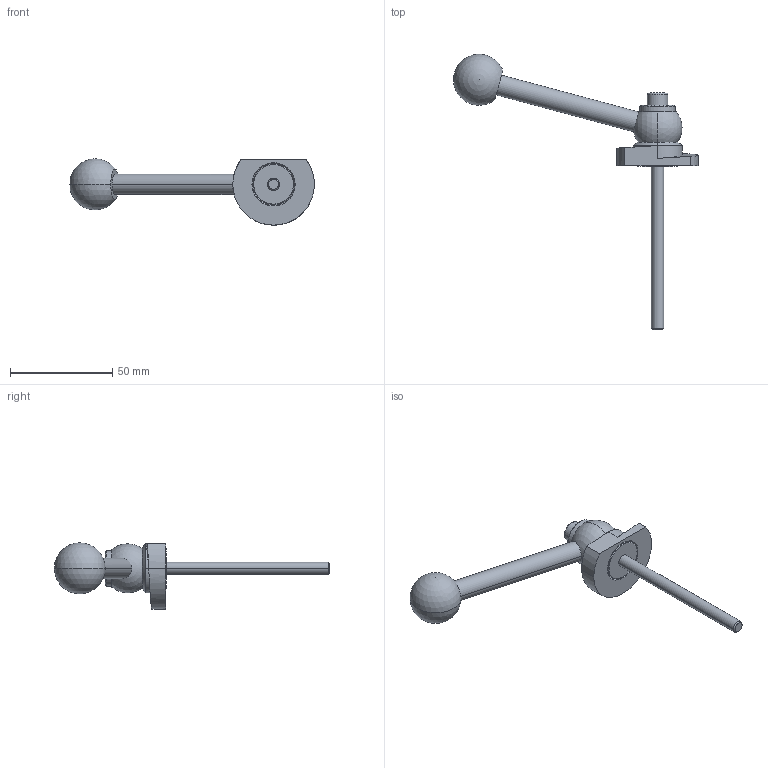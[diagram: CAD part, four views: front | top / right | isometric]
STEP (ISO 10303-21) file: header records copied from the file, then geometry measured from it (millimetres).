
FILE_DESCRIPTION (( 'STEP AP214' ), '1' );
FILE_NAME ('918.1-40-KVS-R-80.step', '2024-05-15T13:00:39', ( '' ), ( '' ), 'SwSTEP 2.0', 'SolidWorks 2022', '' );
FILE_SCHEMA (( 'AUTOMOTIVE_DESIGN' ));
Length unit declared in the file: millimetre
Products named in the file (1): 918.1-40-KVS-R-80
Bounding box: 119.95 x 134.99 x 32.5 mm (x, y, z)
Volume: 32012.1 mm3; surface area: 12344 mm2
Topology: 1 solids, 1 shells, 64 faces, 147 edges, 93 vertices
Faces by surface type: cylinder 22, plane 20, cone 14, sphere 4, torus 2, bspline 2
Entity records: 2045 total; most frequent: CARTESIAN_POINT 590, DIRECTION 321, ORIENTED_EDGE 274, EDGE_CURVE 137, AXIS2_PLACEMENT_3D 131, VERTEX_POINT 87, EDGE_LOOP 76, CIRCLE 68
